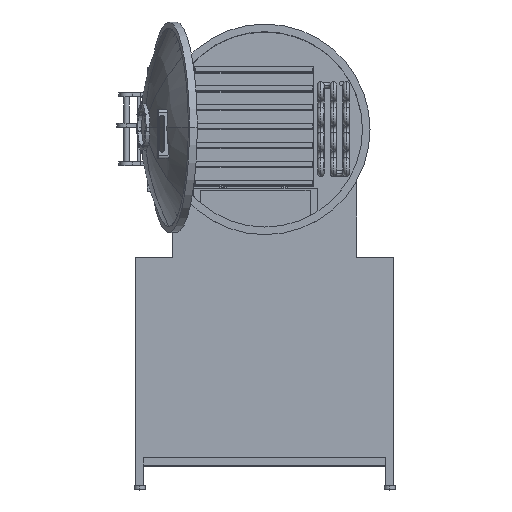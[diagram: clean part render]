
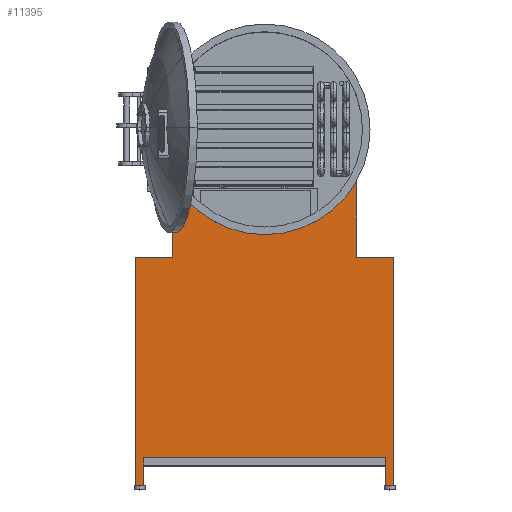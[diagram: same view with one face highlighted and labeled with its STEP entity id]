
A CAD part, top view. The second image highlights one B-rep face of the part: STEP entity #11395.
In plain terms, the highlighted planar face has unit normal (0, 0, 1).
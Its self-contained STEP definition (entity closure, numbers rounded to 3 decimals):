
#9591=CARTESIAN_POINT('Vertex',(610.,-1654.076,40.)) ;
#9594=CARTESIAN_POINT('Line Origine',(0.,-1654.076,40.)) ;
#9598=CARTESIAN_POINT('Vertex',(-610.,-1654.076,40.)) ;
#9963=CARTESIAN_POINT('Line Origine',(-650.,-1219.076,40.)) ;
#9967=CARTESIAN_POINT('Vertex',(-650.,-1794.076,40.)) ;
#9969=CARTESIAN_POINT('Vertex',(-650.,-644.076,40.)) ;
#10093=CARTESIAN_POINT('Line Origine',(-556.802,-644.076,40.)) ;
#10097=CARTESIAN_POINT('Vertex',(-463.603,-644.076,40.)) ;
#10261=CARTESIAN_POINT('Vertex',(650.,-644.076,40.)) ;
#10264=CARTESIAN_POINT('Line Origine',(650.,-1219.076,40.)) ;
#10268=CARTESIAN_POINT('Vertex',(650.,-1794.076,40.)) ;
#10416=CARTESIAN_POINT('Vertex',(463.603,-644.076,40.)) ;
#10419=CARTESIAN_POINT('Line Origine',(556.802,-644.076,40.)) ;
#10848=CARTESIAN_POINT('Line Origine',(-463.603,-415.675,40.)) ;
#10852=CARTESIAN_POINT('Vertex',(-463.603,-187.275,40.)) ;
#11044=CARTESIAN_POINT('Vertex',(463.603,-187.275,40.)) ;
#11047=CARTESIAN_POINT('Line Origine',(463.603,-415.675,40.)) ;
#11152=CARTESIAN_POINT('Line Origine',(-610.,-1724.076,40.)) ;
#11156=CARTESIAN_POINT('Vertex',(-610.,-1794.076,40.)) ;
#11172=CARTESIAN_POINT('Axis2P3D Location',(0.,0.,40.)) ;
#11195=CARTESIAN_POINT('Line Origine',(-630.,-1794.076,40.)) ;
#11210=CARTESIAN_POINT('Vertex',(610.,-1794.076,40.)) ;
#11213=CARTESIAN_POINT('Line Origine',(610.,-1724.076,40.)) ;
#11226=CARTESIAN_POINT('Line Origine',(630.,-1794.076,40.)) ;
#11376=CARTESIAN_POINT('Axis2P3D Location',(0.,0.,40.)) ;
#9595=DIRECTION('Vector Direction',(1.,0.,0.)) ;
#9964=DIRECTION('Vector Direction',(0.,1.,0.)) ;
#10094=DIRECTION('Vector Direction',(-1.,0.,0.)) ;
#10265=DIRECTION('Vector Direction',(0.,1.,0.)) ;
#10420=DIRECTION('Vector Direction',(-1.,0.,0.)) ;
#10849=DIRECTION('Vector Direction',(0.,-1.,0.)) ;
#11048=DIRECTION('Vector Direction',(0.,1.,0.)) ;
#11153=DIRECTION('Vector Direction',(0.,1.,0.)) ;
#11173=DIRECTION('Axis2P3D Direction',(-0.,0.,-1.)) ;
#11196=DIRECTION('Vector Direction',(-1.,0.,0.)) ;
#11214=DIRECTION('Vector Direction',(0.,1.,0.)) ;
#11227=DIRECTION('Vector Direction',(-1.,0.,0.)) ;
#11377=DIRECTION('Axis2P3D Direction',(0.,0.,1.)) ;
#11378=DIRECTION('Axis2P3D XDirection',(1.,0.,0.)) ;
#11174=AXIS2_PLACEMENT_3D('Circle Axis2P3D',#11172,#11173,$) ;
#11379=AXIS2_PLACEMENT_3D('Plane Axis2P3D',#11376,#11377,#11378) ;
#11382=ORIENTED_EDGE('',*,*,#11217,.F.) ;
#11383=ORIENTED_EDGE('',*,*,#11230,.F.) ;
#11384=ORIENTED_EDGE('',*,*,#10270,.T.) ;
#11385=ORIENTED_EDGE('',*,*,#10423,.T.) ;
#11386=ORIENTED_EDGE('',*,*,#11051,.T.) ;
#11387=ORIENTED_EDGE('',*,*,#11176,.T.) ;
#11388=ORIENTED_EDGE('',*,*,#10854,.T.) ;
#11389=ORIENTED_EDGE('',*,*,#10099,.T.) ;
#11390=ORIENTED_EDGE('',*,*,#9971,.F.) ;
#11391=ORIENTED_EDGE('',*,*,#11199,.F.) ;
#11392=ORIENTED_EDGE('',*,*,#11158,.T.) ;
#11393=ORIENTED_EDGE('',*,*,#9600,.F.) ;
#9596=VECTOR('Line Direction',#9595,1.) ;
#9965=VECTOR('Line Direction',#9964,1.) ;
#10095=VECTOR('Line Direction',#10094,1.) ;
#10266=VECTOR('Line Direction',#10265,1.) ;
#10421=VECTOR('Line Direction',#10420,1.) ;
#10850=VECTOR('Line Direction',#10849,1.) ;
#11049=VECTOR('Line Direction',#11048,1.) ;
#11154=VECTOR('Line Direction',#11153,1.) ;
#11197=VECTOR('Line Direction',#11196,1.) ;
#11215=VECTOR('Line Direction',#11214,1.) ;
#11228=VECTOR('Line Direction',#11227,1.) ;
#11395=ADVANCED_FACE('Y?seklik-Ekstr?yon9',(#11394),#11380,.T.) ;
#11175=CIRCLE('generated circle',#11174,500.) ;
#9600=EDGE_CURVE('',#9592,#9599,#9597,.F.) ;
#9971=EDGE_CURVE('',#9968,#9970,#9966,.T.) ;
#10099=EDGE_CURVE('',#10098,#9970,#10096,.T.) ;
#10270=EDGE_CURVE('',#10269,#10262,#10267,.T.) ;
#10423=EDGE_CURVE('',#10262,#10417,#10422,.T.) ;
#10854=EDGE_CURVE('',#10853,#10098,#10851,.T.) ;
#11051=EDGE_CURVE('',#10417,#11045,#11050,.T.) ;
#11158=EDGE_CURVE('',#11157,#9599,#11155,.T.) ;
#11176=EDGE_CURVE('',#11045,#10853,#11175,.T.) ;
#11199=EDGE_CURVE('',#11157,#9968,#11198,.T.) ;
#11217=EDGE_CURVE('',#11211,#9592,#11216,.T.) ;
#11230=EDGE_CURVE('',#10269,#11211,#11229,.T.) ;
#11381=EDGE_LOOP('',(#11382,#11383,#11384,#11385,#11386,#11387,#11388,#11389,#11390,#11391,#11392,#11393)) ;
#11394=FACE_OUTER_BOUND('',#11381,.T.) ;
#9597=LINE('Line',#9594,#9596) ;
#9966=LINE('Line',#9963,#9965) ;
#10096=LINE('Line',#10093,#10095) ;
#10267=LINE('Line',#10264,#10266) ;
#10422=LINE('Line',#10419,#10421) ;
#10851=LINE('Line',#10848,#10850) ;
#11050=LINE('Line',#11047,#11049) ;
#11155=LINE('Line',#11152,#11154) ;
#11198=LINE('Line',#11195,#11197) ;
#11216=LINE('Line',#11213,#11215) ;
#11229=LINE('Line',#11226,#11228) ;
#11380=PLANE('',#11379) ;
#9592=VERTEX_POINT('',#9591) ;
#9599=VERTEX_POINT('',#9598) ;
#9968=VERTEX_POINT('',#9967) ;
#9970=VERTEX_POINT('',#9969) ;
#10098=VERTEX_POINT('',#10097) ;
#10262=VERTEX_POINT('',#10261) ;
#10269=VERTEX_POINT('',#10268) ;
#10417=VERTEX_POINT('',#10416) ;
#10853=VERTEX_POINT('',#10852) ;
#11045=VERTEX_POINT('',#11044) ;
#11157=VERTEX_POINT('',#11156) ;
#11211=VERTEX_POINT('',#11210) ;
